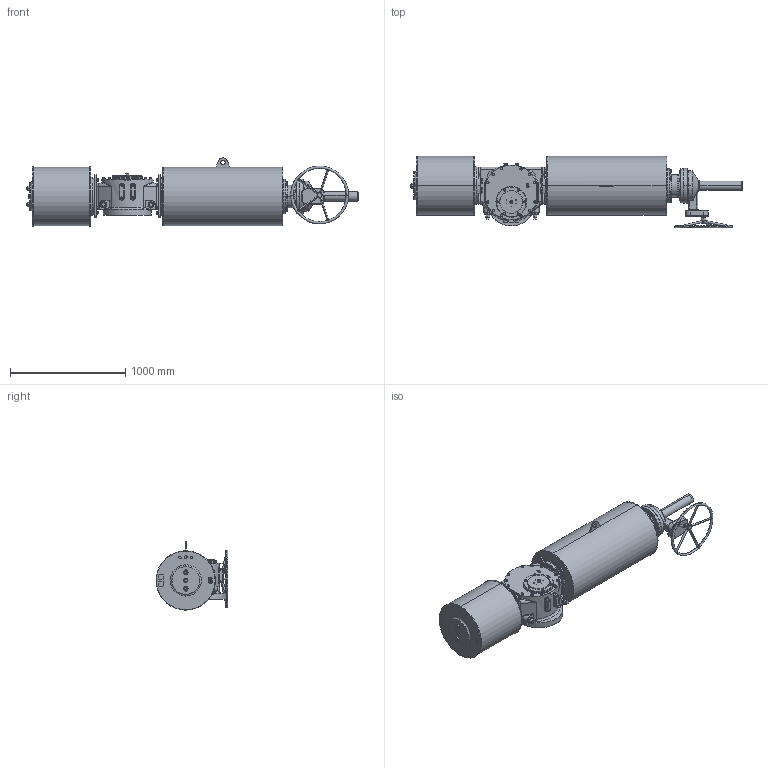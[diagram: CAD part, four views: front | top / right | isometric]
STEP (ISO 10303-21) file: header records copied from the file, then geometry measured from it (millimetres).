
FILE_DESCRIPTION (( 'STEP AP203' ), '1' );
FILE_NAME ('VTS5-500-SR-MG-FC.STEP', '2023-01-01T09:40:53', ( '' ), ( '' ), 'SwSTEP 2.0', 'SolidWorks 2020', '' );
FILE_SCHEMA (( 'CONFIG_CONTROL_DESIGN' ));
Length unit declared in the file: millimetre
Products named in the file (1): VTS5-500-SR-MG-FC
Bounding box: 2875.5 x 622 x 591 mm (x, y, z)
Volume: 397659756.4 mm3; surface area: 6090695.2 mm2
Topology: 4 solids, 15 shells, 2895 faces, 7395 edges, 4615 vertices
Faces by surface type: plane 1141, cylinder 934, cone 653, bspline 127, torus 40
Entity records: 107671 total; most frequent: CARTESIAN_POINT 39054, ORIENTED_EDGE 14554, DIRECTION 14285, EDGE_CURVE 7277, AXIS2_PLACEMENT_3D 5706, VERTEX_POINT 4615, EDGE_LOOP 3230, CIRCLE 2937
